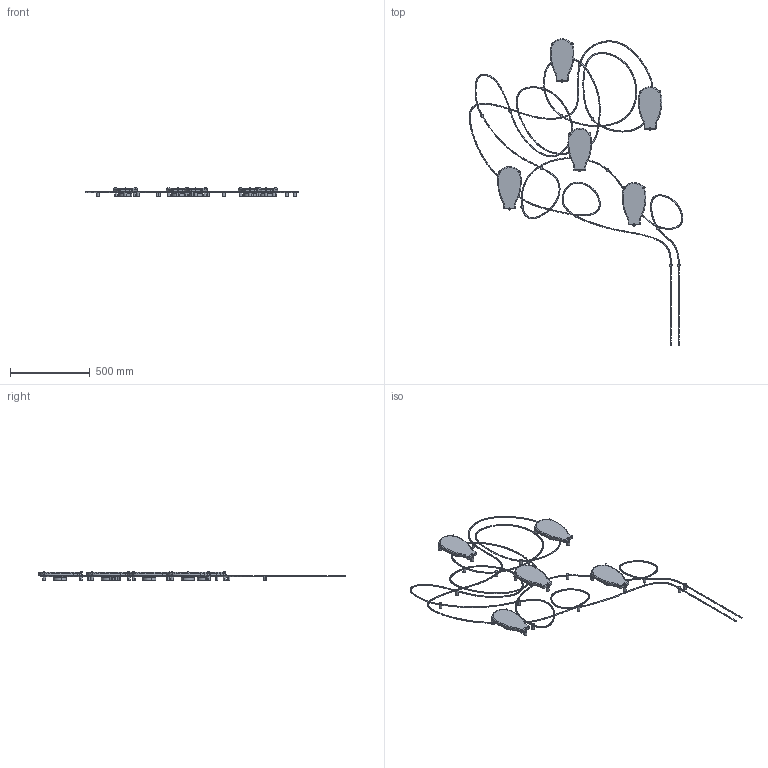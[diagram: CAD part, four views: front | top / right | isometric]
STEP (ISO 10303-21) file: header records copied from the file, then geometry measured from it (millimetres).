
FILE_DESCRIPTION(/* description */ (''),/* implementation_level */ '2;1');
FILE_NAME(/* name */ 'Spettatoristp',/* time_stamp */ '2026-09-30T11:29:33+02:00',/* author */ (''),/* organization */ (''),/* preprocessor_version */ 'ST-DEVELOPER v16.5',/* originating_system */ 'Rhino 7.38',/* authorisation */ '');
FILE_SCHEMA (('CONFIG_CONTROL_DESIGN'));
Length unit declared in the file: millimetre
Products named in the file (1): Document
Bounding box: 1335.13 x 1917.5 x 55.75 mm (x, y, z)
Volume: 1003857.9 mm3; surface area: 776341.2 mm2
Topology: 24 solids, 64 shells, 665 faces, 1682 edges, 1105 vertices
Faces by surface type: plane 328, cylinder 241, bspline 96
Entity records: 31547 total; most frequent: CARTESIAN_POINT 20595, ORIENTED_EDGE 3154, EDGE_CURVE 1682, VERTEX_POINT 1105, B_SPLINE_CURVE_WITH_KNOTS 1066, ADVANCED_FACE 665, FACE_OUTER_BOUND 665, EDGE_LOOP 665
